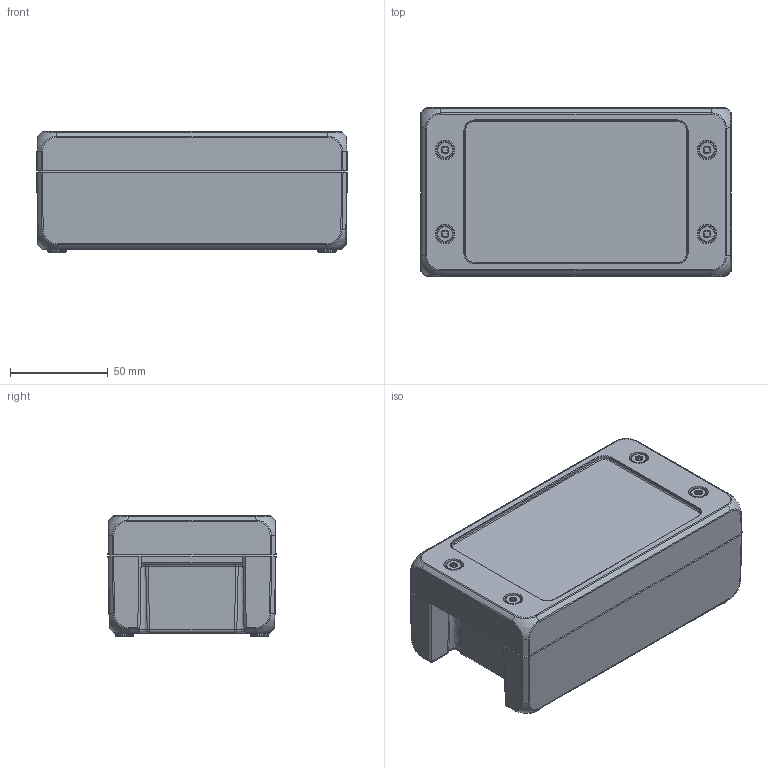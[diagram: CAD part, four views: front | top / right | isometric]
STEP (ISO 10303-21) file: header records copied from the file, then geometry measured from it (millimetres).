
FILE_DESCRIPTION(/* description */ (''),/* implementation_level */ '2;1');
FILE_NAME(/* name */ 'F:\User\Daten\DWG\Anw\AH\temp\2404391_3D.stp',/* time_stamp */ '2020-02-24T11:40:04+01:00',/* author */ ('ahermoni'),/* organization */ (''),/* preprocessor_version */ 'ST-DEVELOPER v17.2',/* originating_system */ 'Autodesk Inventor 2019',/* authorisation */ '');
FILE_SCHEMA (('AUTOMOTIVE_DESIGN { 1 0 10303 214 3 1 1 }'));
Products named in the file (4): 2404391_3D; 2404391_UT_3D; 2404391_OT_3D; 1011454_3DSym
Assembly tree (6 placements, depth 2):
  2404391_3D
    2404391_UT_3D
    2404391_OT_3D
    1011454_3DSym  x4
Bounding box: 159 x 86 x 61.5 mm (x, y, z)
Volume: 221789.2 mm3; surface area: 124475.6 mm2
Topology: 6 solids, 6 shells, 2075 faces, 5058 edges, 3110 vertices
Faces by surface type: plane 726, bspline 567, cylinder 461, cone 179, torus 106, sphere 36
Full cylindrical faces by diameter (mm): 3.242 x14, 4.134 x4, 4.4 x4, 5 x4, 5.4 x2, 5.476 x1, 5.5 x1, 6 x4, 6.8 x2
Entity records: 103421 total; most frequent: CARTESIAN_POINT 58329, ORIENTED_EDGE 9550, DIRECTION 8272, EDGE_CURVE 4775, AXIS2_PLACEMENT_3D 2962, VERTEX_POINT 2960, LINE 2348, VECTOR 2348
